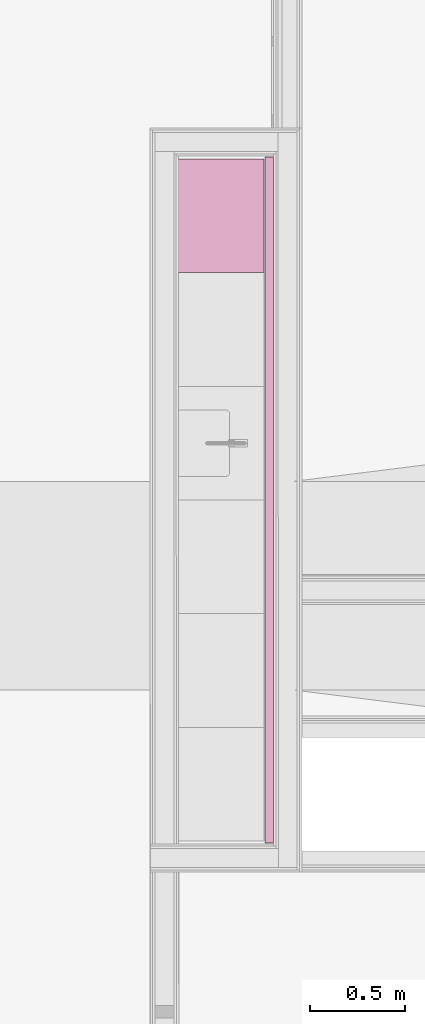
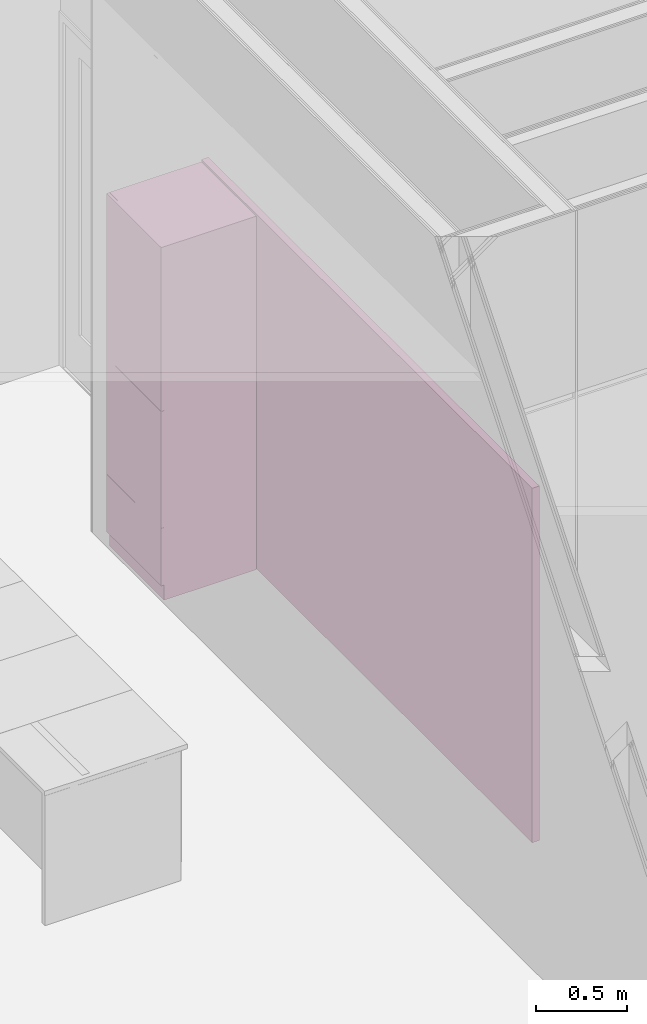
# One storey, part 93 of 94: 2 furnishings.
"""IFC2X3 building model written with IfcOpenShell, lengths in millimetres."""

from ifc_helpers import new_model, entity, si_unit, converted_unit, derived_unit, money_unit, direction, frame, origin_with_axes, place, context, subcontext, project, spatial, faceted_brep, type_object, element, save


model = new_model("IFC2X3")

# Units and contexts
model_context = context("Model", 3, precision=0.01, world=origin_with_axes(), true_north=direction((0.0, 1.0)))
body_context = subcontext(model_context, "Body", "Model", "MODEL_VIEW")
ifc_project = project(units=[si_unit("LENGTHUNIT", "METRE", prefix="MILLI"), si_unit("AREAUNIT", "SQUARE_METRE"), si_unit("VOLUMEUNIT", "CUBIC_METRE"), converted_unit("PLANEANGLEUNIT", "DEGREE", entity("IfcPlaneAngleMeasure", 0.0174532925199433), si_unit("PLANEANGLEUNIT", "RADIAN"), dimensions=[0, 0, 0, 0, 0, 0, 0]), money_unit("EUR"), converted_unit("TIMEUNIT", "Year", entity("IfcTimeMeasure", 31557600.0), si_unit("TIMEUNIT", "SECOND"), dimensions=[0, 0, 1, 0, 0, 0, 0]), si_unit("MASSUNIT", "GRAM", prefix="KILO"), si_unit("THERMODYNAMICTEMPERATUREUNIT", "DEGREE_CELSIUS"), si_unit("LUMINOUSINTENSITYUNIT", "LUMEN"), si_unit("ENERGYUNIT", "JOULE", prefix="MEGA"), derived_unit("THERMALCONDUCTANCEUNIT", [(si_unit("POWERUNIT", "WATT"), 1), (si_unit("LENGTHUNIT", "METRE"), -1), (si_unit("THERMODYNAMICTEMPERATUREUNIT", "KELVIN"), -1)]), derived_unit("SPECIFICHEATCAPACITYUNIT", [(si_unit("ENERGYUNIT", "JOULE"), 1), (si_unit("MASSUNIT", "GRAM", prefix="KILO"), -1), (si_unit("THERMODYNAMICTEMPERATUREUNIT", "KELVIN"), -1)]), derived_unit("MASSDENSITYUNIT", [(si_unit("MASSUNIT", "GRAM", prefix="KILO"), 1), (si_unit("VOLUMEUNIT", "CUBIC_METRE"), -1)])], contexts=[model_context])

# Site, building, storey
site_placement = place(None, origin_with_axes())
site = spatial("IfcSite", under=ifc_project, at=site_placement, Name="<site naam>", CompositionType="ELEMENT")
building_placement = place(site_placement, origin_with_axes())
building = spatial("IfcBuilding", under=site, at=building_placement, Name="<Naam gebouw>", CompositionType="ELEMENT")
storey_placement = place(building_placement, frame((0.0, 0.0, 4250.0), z_axis=(0.0, 0.0, 1.0), x_axis=(1.0, 0.0, 0.0)))
storey = spatial("IfcBuildingStorey", under=building, at=storey_placement, Name="01 1e verdieping", CompositionType="ELEMENT", Elevation=4250.0)

# Furnishings
furnishing_element_type_1 = type_object("IfcFurnishingElementType", Name="Kubus 27")
furnishing_1_placement = place(storey_placement, frame((-145.7530354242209, 18262.48769329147, 0.0), z_axis=(0.0, 0.0, 1.0), x_axis=(0.0, -1.0, 0.0)))
element("IfcFurnishingElement", 1, at=furnishing_1_placement, inside=storey, type_object=furnishing_element_type_1, Name="73_Brandslanghaspelkast_Lege", context=body_context, shape_type="Brep", body=[
    faceted_brep([(3620.0, 0.0, 0.0), (0.0, 0.0, 0.0), (0.0, 45.73177089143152, 0.0), (3620.0, 45.73177089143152, 0.0), (3620.0, 0.0, 2367.0), (0.0, 0.0, 2367.0), (0.0, 45.73177089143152, 2367.0), (3620.0, 45.73177089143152, 2367.0)], [[[0, 1, 2, 3]], [[1, 0, 4, 5]], [[2, 1, 5, 6]], [[3, 2, 6, 7]], [[0, 3, 7, 4]], [[5, 4, 7, 6]]]),
])
furnishing_element_type_2 = type_object("IfcFurnishingElementType", Name="Hoge kast recht 27")
furnishing_2_placement = place(storey_placement, frame((-149.9999999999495, 18252.49996934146, 0.0), z_axis=(0.0, 0.0, 1.0), x_axis=(0.0, -1.0, 0.0)))
element("IfcFurnishingElement", 2, at=furnishing_2_placement, inside=storey, type_object=furnishing_element_type_2, Name="73_Brandslanghaspelkast_Lege", context=body_context, shape_type="Brep", body=[
    faceted_brep([(18.0, -582.0, 476.0), (582.0, -582.0, 476.0), (582.0, -582.0, 494.0), (18.0, -582.0, 494.0), (18.0, -18.0, 476.0), (582.0, -18.0, 476.0), (582.0, -18.0, 494.0), (18.0, -18.0, 494.0)], [[[0, 1, 2, 3]], [[0, 4, 5, 1]], [[1, 5, 6, 2]], [[3, 2, 6, 7]], [[4, 0, 3, 7]], [[5, 4, 7, 6]]]),
    faceted_brep([(18.0, -582.0, 1256.0), (582.0, -582.0, 1256.0), (582.0, -582.0, 1274.0), (18.0, -582.0, 1274.0), (18.0, -18.0, 1256.0), (582.0, -18.0, 1256.0), (582.0, -18.0, 1274.0), (18.0, -18.0, 1274.0)], [[[0, 1, 2, 3]], [[0, 4, 5, 1]], [[1, 5, 6, 2]], [[3, 2, 6, 7]], [[4, 0, 3, 7]], [[5, 4, 7, 6]]]),
    faceted_brep([(1.0, -582.0, 101.0), (599.0, -582.0, 101.0), (599.0, -600.0, 101.0), (1.0, -600.0, 101.0), (1.0, -582.0, 484.0), (599.0, -582.0, 484.0), (599.0, -600.0, 484.0), (1.0, -600.0, 484.0)], [[[0, 1, 2, 3]], [[0, 4, 5, 1]], [[1, 5, 6, 2]], [[3, 2, 6, 7]], [[4, 0, 3, 7]], [[5, 4, 7, 6]]]),
    faceted_brep([(1.0, -582.0, 486.0), (599.0, -582.0, 486.0), (599.0, -600.0, 486.0), (1.0, -600.0, 486.0), (1.0, -582.0, 1264.0), (599.0, -582.0, 1264.0), (599.0, -599.9999999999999, 1264.0), (1.0, -599.9999999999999, 1264.0)], [[[0, 1, 2, 3]], [[0, 4, 5, 1]], [[1, 5, 6, 2]], [[3, 2, 6, 7]], [[4, 0, 3, 7]], [[5, 4, 7, 6]]]),
    faceted_brep([(1.0, -582.0, 1266.0), (599.0, -582.0, 1266.0), (599.0, -600.0, 1266.0), (1.0, -600.0, 1266.0), (1.0, -581.9999999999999, 2359.0), (599.0, -581.9999999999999, 2359.0), (599.0, -599.9999999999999, 2359.0), (1.0, -599.9999999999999, 2359.0)], [[[0, 1, 2, 3]], [[0, 4, 5, 1]], [[1, 5, 6, 2]], [[3, 2, 6, 7]], [[4, 0, 3, 7]], [[5, 4, 7, 6]]]),
    faceted_brep([(18.0, -582.0, 100.0), (582.0, -582.0, 100.0), (582.0, -582.0, 118.0), (18.0, -582.0, 118.0), (18.0, 0.0, 100.0), (582.0, 0.0, 100.0), (582.0, 0.0, 118.0), (18.0, 0.0, 118.0)], [[[0, 1, 2, 3]], [[0, 4, 5, 1]], [[1, 5, 6, 2]], [[3, 2, 6, 7]], [[4, 0, 3, 7]], [[5, 4, 7, 6]]]),
    faceted_brep([(18.0, -582.0, 2342.0), (582.0, -582.0, 2342.0), (582.0, -582.0, 2360.0), (18.0, -582.0, 2360.0), (18.0, 0.0, 2342.0), (582.0, 0.0, 2342.0), (582.0, 0.0, 2360.0), (18.0, 0.0, 2360.0)], [[[0, 1, 2, 3]], [[0, 4, 5, 1]], [[1, 5, 6, 2]], [[3, 2, 6, 7]], [[4, 0, 3, 7]], [[5, 4, 7, 6]]]),
    faceted_brep([(0.0, 0.0, 100.0), (0.0, -582.0, 100.0), (0.0, -582.0, 2360.0), (0.0, 0.0, 2360.0), (18.0, 0.0, 100.0), (18.0, -582.0, 100.0), (18.0, -582.0, 2360.0), (18.0, 0.0, 2360.0)], [[[0, 1, 2, 3]], [[0, 4, 5, 1]], [[1, 5, 6, 2]], [[3, 2, 6, 7]], [[4, 0, 3, 7]], [[5, 4, 7, 6]]]),
    faceted_brep([(600.0, -582.0, 100.0), (600.0, 0.0, 100.0), (600.0, 0.0, 2360.0), (600.0, -582.0, 2360.0), (582.0, -582.0, 100.0), (582.0, 0.0, 100.0), (582.0, 0.0, 2360.0), (582.0, -582.0, 2360.0)], [[[0, 1, 2, 3]], [[0, 4, 5, 1]], [[1, 5, 6, 2]], [[3, 2, 6, 7]], [[4, 0, 3, 7]], [[5, 4, 7, 6]]]),
    faceted_brep([(582.0, -9.0, 118.0), (18.00000000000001, -9.0, 118.0), (18.00000000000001, -9.0, 2342.0), (582.0, -9.0, 2342.0), (582.0, -18.0, 118.0), (18.00000000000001, -18.0, 118.0), (18.00000000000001, -18.0, 2342.0), (582.0, -18.0, 2342.0)], [[[0, 1, 2, 3]], [[0, 4, 5, 1]], [[1, 5, 6, 2]], [[3, 2, 6, 7]], [[4, 0, 3, 7]], [[5, 4, 7, 6]]]),
    faceted_brep([(0.0, -582.0, 0.0), (600.0, -582.0, 0.0), (600.0, -582.0, 100.0), (0.0, -582.0, 100.0), (0.0, 0.0, 0.0), (600.0, 0.0, 0.0), (600.0, 0.0, 100.0), (0.0, 0.0, 100.0)], [[[0, 1, 2, 3]], [[0, 4, 5, 1]], [[1, 5, 6, 2]], [[3, 2, 6, 7]], [[4, 0, 3, 7]], [[5, 4, 7, 6]]]),
])

save(model, "model.ifc")
